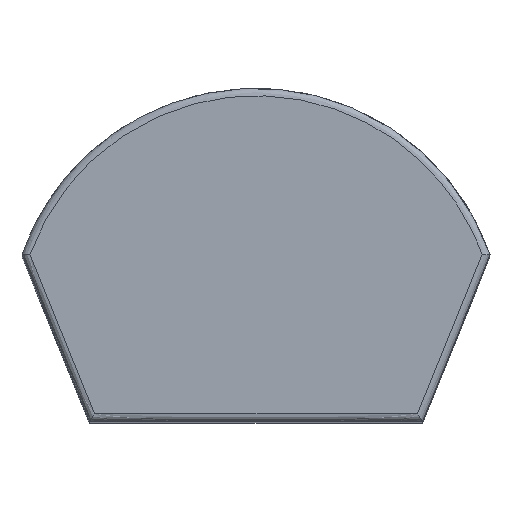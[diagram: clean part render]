
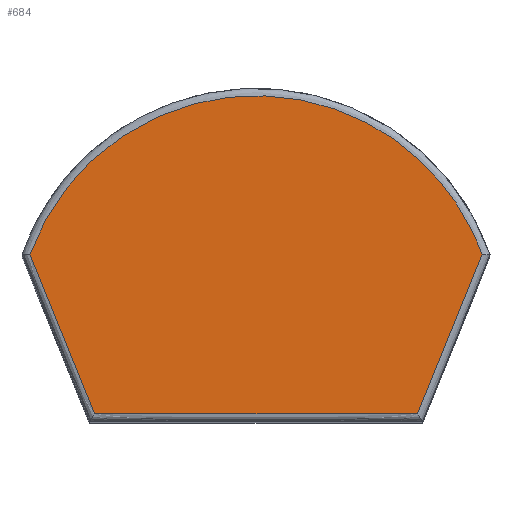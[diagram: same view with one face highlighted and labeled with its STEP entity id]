
A CAD part, top view. The second image highlights one B-rep face of the part: STEP entity #684.
In plain terms, the highlighted free-form (B-spline) face has degree [1, 1] with [2, 2] control points.
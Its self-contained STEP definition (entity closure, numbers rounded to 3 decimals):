
#30 = ORIENTED_EDGE ( 'NONE', *, *, #190, .F. ) ;
#49 = CARTESIAN_POINT ( 'NONE',  ( 61.855, 88.516, 10. ) ) ;
#69 = CARTESIAN_POINT ( 'NONE',  ( -43.653, 2., 10. ) ) ;
#114 = ORIENTED_EDGE ( 'NONE', *, *, #476, .F. ) ;
#115 = CARTESIAN_POINT ( 'NONE',  ( -61.855, 88.516, 10. ) ) ;
#120 = ORIENTED_EDGE ( 'NONE', *, *, #487, .T. ) ;
#143 = CARTESIAN_POINT ( 'NONE',  ( 36.432, 113.601, 10. ) ) ;
#158 = CARTESIAN_POINT ( 'NONE',  ( -43.653, 2., 10. ) ) ;
#186 = CARTESIAN_POINT ( 'NONE',  ( 43.653, 2., 10. ) ) ;
#190 = EDGE_CURVE ( 'NONE', #469, #205, #705, .T. ) ;
#199 = CARTESIAN_POINT ( 'NONE',  ( 61.855, 2., 10. ) ) ;
#205 = VERTEX_POINT ( 'NONE', #531 ) ;
#241 = VERTEX_POINT ( 'NONE', #158 ) ;
#294 = CARTESIAN_POINT ( 'NONE',  ( -61.121, 45.049, 10. ) ) ;
#301 = CARTESIAN_POINT ( 'NONE',  ( -61.121, 45.049, 10. ) ) ;
#358 = FACE_OUTER_BOUND ( 'NONE', #434, .T. ) ;
#410 = ORIENTED_EDGE ( 'NONE', *, *, #972, .F. ) ;
#433 = B_SPLINE_CURVE_WITH_KNOTS ( 'NONE', 1,
 ( #69, #301 ),
 .UNSPECIFIED., .F., .F.,
 ( 2, 2 ),
 ( -1., 0. ),
 .UNSPECIFIED. ) ;
#434 = EDGE_LOOP ( 'NONE', ( #410, #120, #30, #114 ) ) ;
#464 = CARTESIAN_POINT ( 'NONE',  ( -61.121, 45.049, 10. ) ) ;
#469 = VERTEX_POINT ( 'NONE', #294 ) ;
#476 = EDGE_CURVE ( 'NONE', #241, #469, #433, .T. ) ;
#487 = EDGE_CURVE ( 'NONE', #508, #205, #670, .T. ) ;
#508 = VERTEX_POINT ( 'NONE', #544 ) ;
#531 = CARTESIAN_POINT ( 'NONE',  ( 61.121, 45.049, 10. ) ) ;
#544 = CARTESIAN_POINT ( 'NONE',  ( 43.653, 2., 10. ) ) ;
#617 = CARTESIAN_POINT ( 'NONE',  ( -36.432, 113.601, 10. ) ) ;
#670 = B_SPLINE_CURVE_WITH_KNOTS ( 'NONE', 3,
 ( #863, #688, #941, #701 ),
 .UNSPECIFIED., .F., .F.,
 ( 4, 4 ),
 ( 0., 1. ),
 .UNSPECIFIED. ) ;
#684 = ADVANCED_FACE ( 'NONE', ( #358 ), #880, .F. ) ;
#688 = CARTESIAN_POINT ( 'NONE',  ( 49.476, 16.35, 10. ) ) ;
#701 = CARTESIAN_POINT ( 'NONE',  ( 61.121, 45.049, 10. ) ) ;
#705 =( BOUNDED_CURVE ( )  B_SPLINE_CURVE ( 3, ( #464, #617, #143, #926 ),
 .UNSPECIFIED., .F., .T. ) 
 B_SPLINE_CURVE_WITH_KNOTS ( ( 4, 4 ),
 ( 0., 2.45 ),
 .UNSPECIFIED. ) 
 CURVE ( )  GEOMETRIC_REPRESENTATION_ITEM ( )  RATIONAL_B_SPLINE_CURVE ( ( 0.939, 0.525, 0.525, 0.939 ) ) 
 REPRESENTATION_ITEM ( '' )  );
#747 = CARTESIAN_POINT ( 'NONE',  ( -61.855, 2., 10. ) ) ;
#766 = B_SPLINE_CURVE_WITH_KNOTS ( 'NONE', 1,
 ( #186, #989 ),
 .UNSPECIFIED., .F., .F.,
 ( 2, 2 ),
 ( -1., 0. ),
 .UNSPECIFIED. ) ;
#863 = CARTESIAN_POINT ( 'NONE',  ( 43.653, 2., 10. ) ) ;
#880 = B_SPLINE_SURFACE_WITH_KNOTS ( 'NONE', 1, 1, ( 
 ( #199, #49 ),
 ( #747, #115 ) ),
 .UNSPECIFIED., .F., .F., .F.,
 ( 2, 2 ),
 ( 2, 2 ),
 ( 0., 1. ),
 ( 0., 1. ),
 .UNSPECIFIED. ) ;
#926 = CARTESIAN_POINT ( 'NONE',  ( 61.121, 45.049, 10. ) ) ;
#941 = CARTESIAN_POINT ( 'NONE',  ( 55.298, 30.699, 10. ) ) ;
#972 = EDGE_CURVE ( 'NONE', #508, #241, #766, .T. ) ;
#989 = CARTESIAN_POINT ( 'NONE',  ( -43.653, 2., 10. ) ) ;
